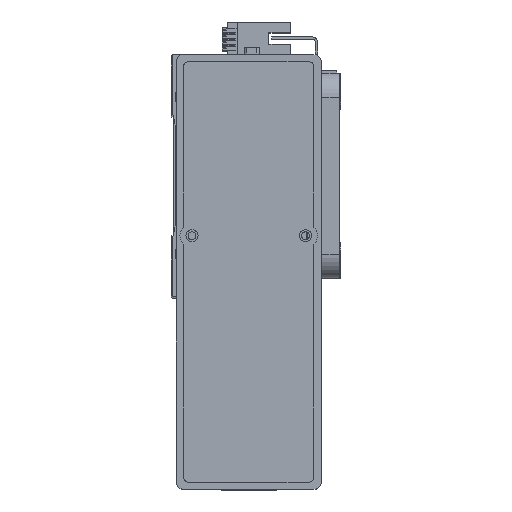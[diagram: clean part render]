
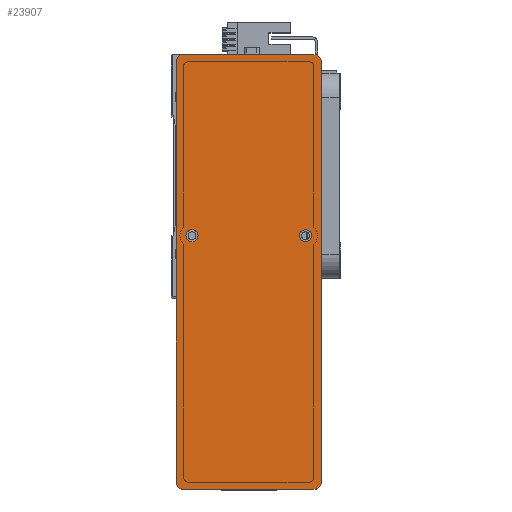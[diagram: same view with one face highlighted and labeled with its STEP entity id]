
A CAD part, top view. The second image highlights one B-rep face of the part: STEP entity #23907.
In plain terms, the highlighted planar face has unit normal (0, 0, 1) as drawn and (0, 0, -1) by its records, which use the part's own axes.
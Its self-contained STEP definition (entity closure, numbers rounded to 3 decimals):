
#580 = CARTESIAN_POINT ( 'NONE',  ( -17.5, -23.5, 0. ) ) ;
#672 = DIRECTION ( 'NONE',  ( 0., -1., 0. ) ) ;
#1087 = DIRECTION ( 'NONE',  ( 0., 0., -1. ) ) ;
#1103 = VERTEX_POINT ( 'NONE', #28783 ) ;
#1222 = EDGE_LOOP ( 'NONE', ( #53568, #36143 ) ) ;
#2389 = EDGE_LOOP ( 'NONE', ( #26528, #27681, #19596, #31784, #45898, #12985, #5954, #51102 ) ) ;
#3041 = CARTESIAN_POINT ( 'NONE',  ( 90., 27., 0. ) ) ;
#3627 = CIRCLE ( 'NONE', #50789, 2.5 ) ;
#3813 = DIRECTION ( 'NONE',  ( -1., 0., 0. ) ) ;
#4222 = CIRCLE ( 'NONE', #11565, 2.5 ) ;
#4979 = EDGE_CURVE ( 'NONE', #23359, #19609, #12749, .T. ) ;
#5006 = VERTEX_POINT ( 'NONE', #5516 ) ;
#5101 = DIRECTION ( 'NONE',  ( 0., 0., -1. ) ) ;
#5472 = CARTESIAN_POINT ( 'NONE',  ( -87., 30., 0. ) ) ;
#5516 = CARTESIAN_POINT ( 'NONE',  ( -87., -30., 0. ) ) ;
#5954 = ORIENTED_EDGE ( 'NONE', *, *, #4979, .F. ) ;
#7138 = EDGE_CURVE ( 'NONE', #25340, #12724, #53337, .T. ) ;
#7930 = EDGE_CURVE ( 'NONE', #35304, #43014, #18078, .T. ) ;
#8606 = CIRCLE ( 'NONE', #30058, 2.5 ) ;
#10043 = CIRCLE ( 'NONE', #28825, 3. ) ;
#10739 = DIRECTION ( 'NONE',  ( 0., 0., 1. ) ) ;
#11333 = CIRCLE ( 'NONE', #21007, 2.5 ) ;
#11542 = CARTESIAN_POINT ( 'NONE',  ( 90., -30., 0. ) ) ;
#11565 = AXIS2_PLACEMENT_3D ( 'NONE', #55224, #29426, #3813 ) ;
#11968 = DIRECTION ( 'NONE',  ( 0., 0., -1. ) ) ;
#12724 = VERTEX_POINT ( 'NONE', #3041 ) ;
#12749 = LINE ( 'NONE', #18029, #34272 ) ;
#12985 = ORIENTED_EDGE ( 'NONE', *, *, #51467, .T. ) ;
#13387 = CARTESIAN_POINT ( 'NONE',  ( -90., -30., 0. ) ) ;
#13824 = DIRECTION ( 'NONE',  ( 0., 0., -1. ) ) ;
#15255 = PLANE ( 'NONE',  #31566 ) ;
#15261 = VERTEX_POINT ( 'NONE', #37715 ) ;
#16724 = CARTESIAN_POINT ( 'NONE',  ( 87., 27., 0. ) ) ;
#17012 = ORIENTED_EDGE ( 'NONE', *, *, #29415, .F. ) ;
#17470 = CARTESIAN_POINT ( 'NONE',  ( -15., -23.5, 0. ) ) ;
#17628 = VECTOR ( 'NONE', #45979, 1000. ) ;
#18020 = LINE ( 'NONE', #19073, #28088 ) ;
#18029 = CARTESIAN_POINT ( 'NONE',  ( 90., 30., 0. ) ) ;
#18078 = LINE ( 'NONE', #13387, #51095 ) ;
#18210 = DIRECTION ( 'NONE',  ( -1., 0., 0. ) ) ;
#18307 = CIRCLE ( 'NONE', #46347, 3. ) ;
#18821 = CARTESIAN_POINT ( 'NONE',  ( -90., -27., 0. ) ) ;
#19073 = CARTESIAN_POINT ( 'NONE',  ( 90., -30., 0. ) ) ;
#19596 = ORIENTED_EDGE ( 'NONE', *, *, #36381, .F. ) ;
#19609 = VERTEX_POINT ( 'NONE', #5472 ) ;
#20023 = VERTEX_POINT ( 'NONE', #580 ) ;
#20428 = FACE_OUTER_BOUND ( 'NONE', #2389, .T. ) ;
#21007 = AXIS2_PLACEMENT_3D ( 'NONE', #17470, #47679, #21802 ) ;
#21038 = DIRECTION ( 'NONE',  ( 1., 0., 0. ) ) ;
#21802 = DIRECTION ( 'NONE',  ( -1., 0., 0. ) ) ;
#22568 = DIRECTION ( 'NONE',  ( 0., 0., -1. ) ) ;
#23359 = VERTEX_POINT ( 'NONE', #23510 ) ;
#23360 = DIRECTION ( 'NONE',  ( 1., 0., 0. ) ) ;
#23510 = CARTESIAN_POINT ( 'NONE',  ( 87., 30., 0. ) ) ;
#23907 = ADVANCED_FACE ( 'NONE', ( #24421, #41994, #20428 ), #15255, .F. ) ;
#24421 = FACE_BOUND ( 'NONE', #46992, .T. ) ;
#25340 = VERTEX_POINT ( 'NONE', #32823 ) ;
#26528 = ORIENTED_EDGE ( 'NONE', *, *, #7138, .F. ) ;
#26699 = CARTESIAN_POINT ( 'NONE',  ( -87., -27., 0. ) ) ;
#26778 = EDGE_CURVE ( 'NONE', #38829, #20023, #4222, .T. ) ;
#27681 = ORIENTED_EDGE ( 'NONE', *, *, #36150, .T. ) ;
#28088 = VECTOR ( 'NONE', #23360, 1000. ) ;
#28415 = EDGE_CURVE ( 'NONE', #20023, #38829, #11333, .T. ) ;
#28583 = CARTESIAN_POINT ( 'NONE',  ( -90., 27., 0. ) ) ;
#28783 = CARTESIAN_POINT ( 'NONE',  ( -12.5, 23.5, 0. ) ) ;
#28805 = CIRCLE ( 'NONE', #45765, 3. ) ;
#28825 = AXIS2_PLACEMENT_3D ( 'NONE', #30775, #5101, #35138 ) ;
#29415 = EDGE_CURVE ( 'NONE', #32003, #1103, #8606, .T. ) ;
#29426 = DIRECTION ( 'NONE',  ( 0., 0., -1. ) ) ;
#30058 = AXIS2_PLACEMENT_3D ( 'NONE', #37748, #11968, #42060 ) ;
#30166 = ORIENTED_EDGE ( 'NONE', *, *, #35064, .F. ) ;
#30775 = CARTESIAN_POINT ( 'NONE',  ( 87., -27., 0. ) ) ;
#31044 = DIRECTION ( 'NONE',  ( 1., 0., 0. ) ) ;
#31566 = AXIS2_PLACEMENT_3D ( 'NONE', #36723, #10739, #45374 ) ;
#31784 = ORIENTED_EDGE ( 'NONE', *, *, #40908, .T. ) ;
#32003 = VERTEX_POINT ( 'NONE', #34723 ) ;
#32823 = CARTESIAN_POINT ( 'NONE',  ( 90., -27., 0. ) ) ;
#32952 = AXIS2_PLACEMENT_3D ( 'NONE', #39594, #13824, #43902 ) ;
#34272 = VECTOR ( 'NONE', #18210, 1000. ) ;
#34723 = CARTESIAN_POINT ( 'NONE',  ( -17.5, 23.5, 0. ) ) ;
#35064 = EDGE_CURVE ( 'NONE', #1103, #32003, #3627, .T. ) ;
#35138 = DIRECTION ( 'NONE',  ( 1., 0., 0. ) ) ;
#35304 = VERTEX_POINT ( 'NONE', #28583 ) ;
#35935 = CARTESIAN_POINT ( 'NONE',  ( -12.5, -23.5, 0. ) ) ;
#36143 = ORIENTED_EDGE ( 'NONE', *, *, #26778, .F. ) ;
#36150 = EDGE_CURVE ( 'NONE', #25340, #15261, #10043, .T. ) ;
#36381 = EDGE_CURVE ( 'NONE', #5006, #15261, #18020, .T. ) ;
#36723 = CARTESIAN_POINT ( 'NONE',  ( 0., 0., 0. ) ) ;
#37715 = CARTESIAN_POINT ( 'NONE',  ( 87., -30., 0. ) ) ;
#37748 = CARTESIAN_POINT ( 'NONE',  ( -15., 23.5, 0. ) ) ;
#38829 = VERTEX_POINT ( 'NONE', #35935 ) ;
#39594 = CARTESIAN_POINT ( 'NONE',  ( -87., 27., 0. ) ) ;
#40908 = EDGE_CURVE ( 'NONE', #5006, #43014, #18307, .T. ) ;
#41994 = FACE_BOUND ( 'NONE', #1222, .T. ) ;
#42060 = DIRECTION ( 'NONE',  ( -1., 0., 0. ) ) ;
#42163 = CIRCLE ( 'NONE', #32952, 3. ) ;
#43014 = VERTEX_POINT ( 'NONE', #18821 ) ;
#43902 = DIRECTION ( 'NONE',  ( 1., 0., 0. ) ) ;
#45374 = DIRECTION ( 'NONE',  ( 1., 0., 0. ) ) ;
#45765 = AXIS2_PLACEMENT_3D ( 'NONE', #16724, #46887, #21038 ) ;
#45898 = ORIENTED_EDGE ( 'NONE', *, *, #7930, .F. ) ;
#45979 = DIRECTION ( 'NONE',  ( 0., 1., 0. ) ) ;
#46347 = AXIS2_PLACEMENT_3D ( 'NONE', #26699, #1087, #31044 ) ;
#46887 = DIRECTION ( 'NONE',  ( 0., 0., -1. ) ) ;
#46992 = EDGE_LOOP ( 'NONE', ( #17012, #30166 ) ) ;
#47679 = DIRECTION ( 'NONE',  ( 0., 0., -1. ) ) ;
#48320 = EDGE_CURVE ( 'NONE', #23359, #12724, #28805, .T. ) ;
#48429 = CARTESIAN_POINT ( 'NONE',  ( -15., 23.5, 0. ) ) ;
#50789 = AXIS2_PLACEMENT_3D ( 'NONE', #48429, #22568, #52714 ) ;
#51095 = VECTOR ( 'NONE', #672, 1000. ) ;
#51102 = ORIENTED_EDGE ( 'NONE', *, *, #48320, .T. ) ;
#51467 = EDGE_CURVE ( 'NONE', #35304, #19609, #42163, .T. ) ;
#52714 = DIRECTION ( 'NONE',  ( -1., 0., 0. ) ) ;
#53337 = LINE ( 'NONE', #11542, #17628 ) ;
#53568 = ORIENTED_EDGE ( 'NONE', *, *, #28415, .F. ) ;
#55224 = CARTESIAN_POINT ( 'NONE',  ( -15., -23.5, 0. ) ) ;
